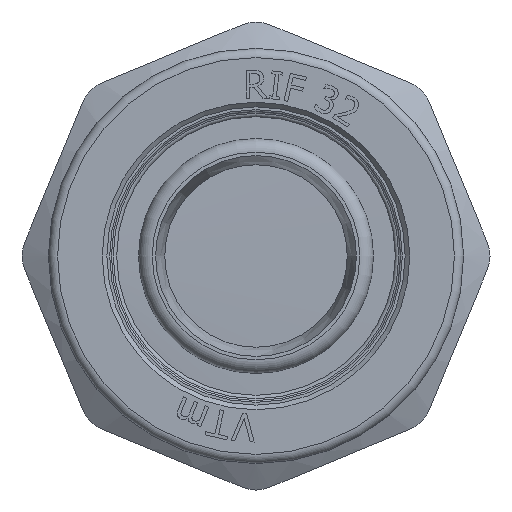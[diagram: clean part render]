
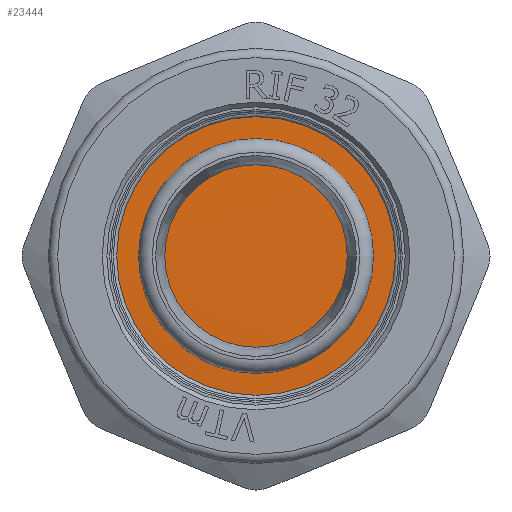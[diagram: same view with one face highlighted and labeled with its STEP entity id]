
A CAD part, left-side view. The second image highlights one B-rep face of the part: STEP entity #23444.
In plain terms, the highlighted cylindrical face has radius 21 mm (diameter 42 mm), a full revolution.
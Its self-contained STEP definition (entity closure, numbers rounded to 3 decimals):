
#1919=FACE_OUTER_BOUND('',#3250,.T.);
#3250=EDGE_LOOP('',(#15728,#15729,#15730));
#4691=B_SPLINE_CURVE_WITH_KNOTS('',3,(#30088,#30089,#30090,#30091,#30092,
#30093,#30094,#30095,#30096,#30097,#30098,#30099,#30100,#30101,#30102,#30103,
#30104,#30105,#30106,#30107,#30108,#30109,#30110,#30111,#30112,#30113,#30114,
#30115,#30116,#30117,#30118,#30119,#30120,#30121,#30122,#30123,#30124,#30125,
#30126,#30127,#30128,#30129,#30130),.UNSPECIFIED.,.F.,.F.,(4,3,3,3,3,3,
3,3,3,3,3,3,3,3,4),(-31.416,-31.253,-30.757,
-30.261,-29.765,-29.269,-28.773,
-28.277,-27.782,-27.286,-26.79,
-26.294,-25.798,-25.302,-25.133),
 .UNSPECIFIED.);
#6312=LINE('',#29907,#7842);
#6317=LINE('',#30087,#7847);
#7842=VECTOR('',#25962,21.);
#7847=VECTOR('',#25979,21.);
#9373=VERTEX_POINT('',#29905);
#9374=VERTEX_POINT('',#29906);
#9382=VERTEX_POINT('',#30086);
#11929=EDGE_CURVE('',#9373,#9374,#6312,.T.);
#11942=EDGE_CURVE('',#9382,#9374,#6317,.T.);
#11943=EDGE_CURVE('',#9382,#9373,#4691,.T.);
#15728=ORIENTED_EDGE('',*,*,#11929,.T.);
#15729=ORIENTED_EDGE('',*,*,#11942,.F.);
#15730=ORIENTED_EDGE('',*,*,#11943,.T.);
#23276=CYLINDRICAL_SURFACE('',#24796,21.);
#23444=ADVANCED_FACE('',(#1919),#23276,.T.);
#24796=AXIS2_PLACEMENT_3D('',#30085,#25977,#25978);
#25962=DIRECTION('',(-1.,0.,0.));
#25977=DIRECTION('center_axis',(-1.,0.,0.));
#25978=DIRECTION('ref_axis',(0.,-1.,0.));
#25979=DIRECTION('',(1.,0.,0.));
#29905=CARTESIAN_POINT('',(-10.1,21.,0.));
#29906=CARTESIAN_POINT('',(-11.5,21.,0.));
#29907=CARTESIAN_POINT('',(-9.612,21.,0.));
#30085=CARTESIAN_POINT('Origin',(-9.612,0.,0.));
#30086=CARTESIAN_POINT('',(-11.6,21.,0.));
#30087=CARTESIAN_POINT('',(-9.612,21.,0.));
#30088=CARTESIAN_POINT('Ctrl Pts',(-11.6,20.999,0.));
#30089=CARTESIAN_POINT('Ctrl Pts',(-11.587,21.,1.143));
#30090=CARTESIAN_POINT('Ctrl Pts',(-11.574,20.908,2.286));
#30091=CARTESIAN_POINT('Ctrl Pts',(-11.561,20.723,3.413));
#30092=CARTESIAN_POINT('Ctrl Pts',(-11.522,20.159,6.837));
#30093=CARTESIAN_POINT('Ctrl Pts',(-11.482,18.728,10.119));
#30094=CARTESIAN_POINT('Ctrl Pts',(-11.443,16.603,12.862));
#30095=CARTESIAN_POINT('Ctrl Pts',(-11.403,14.477,15.605));
#30096=CARTESIAN_POINT('Ctrl Pts',(-11.364,11.658,17.811));
#30097=CARTESIAN_POINT('Ctrl Pts',(-11.324,8.483,19.212));
#30098=CARTESIAN_POINT('Ctrl Pts',(-11.285,5.308,20.614));
#30099=CARTESIAN_POINT('Ctrl Pts',(-11.245,1.779,21.212));
#30100=CARTESIAN_POINT('Ctrl Pts',(-11.206,-1.68,
20.934));
#30101=CARTESIAN_POINT('Ctrl Pts',(-11.166,-5.139,
20.657));
#30102=CARTESIAN_POINT('Ctrl Pts',(-11.127,-8.528,
19.504));
#30103=CARTESIAN_POINT('Ctrl Pts',(-11.087,-11.438,
17.614));
#30104=CARTESIAN_POINT('Ctrl Pts',(-11.048,-14.349,
15.724));
#30105=CARTESIAN_POINT('Ctrl Pts',(-11.009,-16.781,
13.097));
#30106=CARTESIAN_POINT('Ctrl Pts',(-10.969,-18.441,
10.05));
#30107=CARTESIAN_POINT('Ctrl Pts',(-10.93,-20.102,7.002));
#30108=CARTESIAN_POINT('Ctrl Pts',(-10.89,-20.991,
3.535));
#30109=CARTESIAN_POINT('Ctrl Pts',(-10.851,-21.002,
0.065));
#30110=CARTESIAN_POINT('Ctrl Pts',(-10.811,-21.012,
-3.406));
#30111=CARTESIAN_POINT('Ctrl Pts',(-10.772,-20.145,
-6.878));
#30112=CARTESIAN_POINT('Ctrl Pts',(-10.732,-18.503,
-9.936));
#30113=CARTESIAN_POINT('Ctrl Pts',(-10.693,-16.861,
-12.993));
#30114=CARTESIAN_POINT('Ctrl Pts',(-10.653,-14.445,
-15.635));
#30115=CARTESIAN_POINT('Ctrl Pts',(-10.614,-11.547,
-17.543));
#30116=CARTESIAN_POINT('Ctrl Pts',(-10.575,-8.648,
-19.451));
#30117=CARTESIAN_POINT('Ctrl Pts',(-10.535,-5.266,
-20.625));
#30118=CARTESIAN_POINT('Ctrl Pts',(-10.496,-1.809,-20.924));
#30119=CARTESIAN_POINT('Ctrl Pts',(-10.456,1.648,-21.223));
#30120=CARTESIAN_POINT('Ctrl Pts',(-10.417,5.181,-20.646));
#30121=CARTESIAN_POINT('Ctrl Pts',(-10.377,8.365,-19.264));
#30122=CARTESIAN_POINT('Ctrl Pts',(-10.338,11.548,-17.882));
#30123=CARTESIAN_POINT('Ctrl Pts',(-10.298,14.381,-15.694));
#30124=CARTESIAN_POINT('Ctrl Pts',(-10.259,16.523,-12.964));
#30125=CARTESIAN_POINT('Ctrl Pts',(-10.219,18.665,-10.234));
#30126=CARTESIAN_POINT('Ctrl Pts',(-10.18,20.116,-6.961));
#30127=CARTESIAN_POINT('Ctrl Pts',(-10.14,20.701,-3.541));
#30128=CARTESIAN_POINT('Ctrl Pts',(-10.127,20.901,-2.372));
#30129=CARTESIAN_POINT('Ctrl Pts',(-10.113,21.,-1.186));
#30130=CARTESIAN_POINT('Ctrl Pts',(-10.1,20.999,0.));
